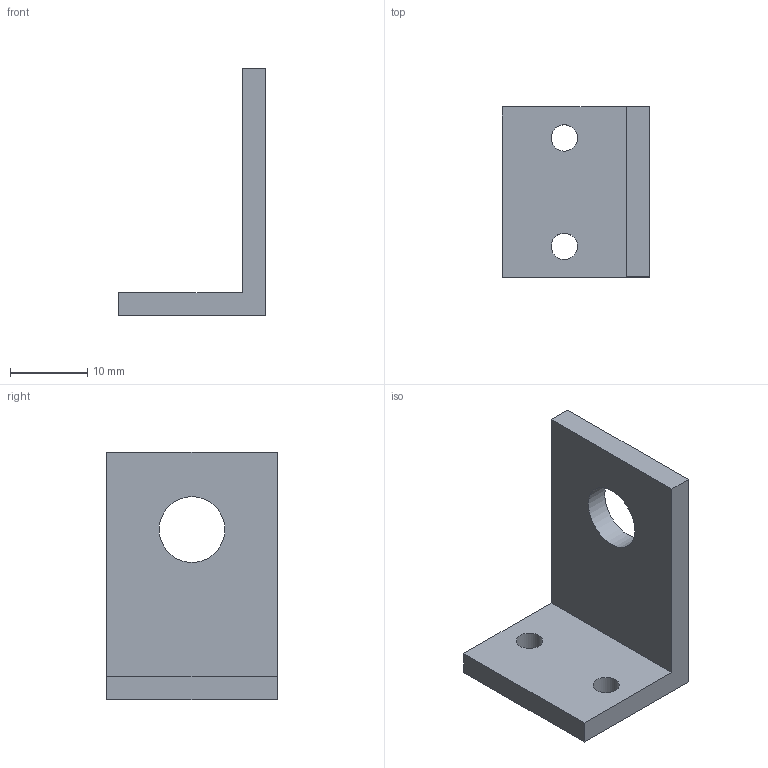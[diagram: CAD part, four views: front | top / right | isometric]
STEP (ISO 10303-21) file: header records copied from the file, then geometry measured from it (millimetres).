
FILE_DESCRIPTION(('FreeCAD Model'),'2;1');
FILE_NAME('Open CASCADE Shape Model','2026-10-12T22:45:25',('FreeCAD'),( 'FreeCAD'),'Open CASCADE STEP processor 7.8','FreeCAD','Unknown');
FILE_SCHEMA(('AUTOMOTIVE_DESIGN { 1 0 10303 214 1 1 1 1 }'));
Length unit declared in the file: millimetre
Products named in the file (1): Open CASCADE STEP translator 7.8 17
Bounding box: 19 x 22 x 32 mm (x, y, z)
Volume: 2943.3 mm3; surface area: 2526.4 mm2
Topology: 1 solids, 1 shells, 11 faces, 27 edges, 18 vertices
Faces by surface type: plane 8, cylinder 3
Full cylindrical faces by diameter (mm): 3.4 x2, 8.5 x1
Entity records: 349 total; most frequent: CARTESIAN_POINT 57, DIRECTION 57, ORIENTED_EDGE 54, EDGE_CURVE 27, LINE 21, VECTOR 21, AXIS2_PLACEMENT_3D 18, VERTEX_POINT 18
